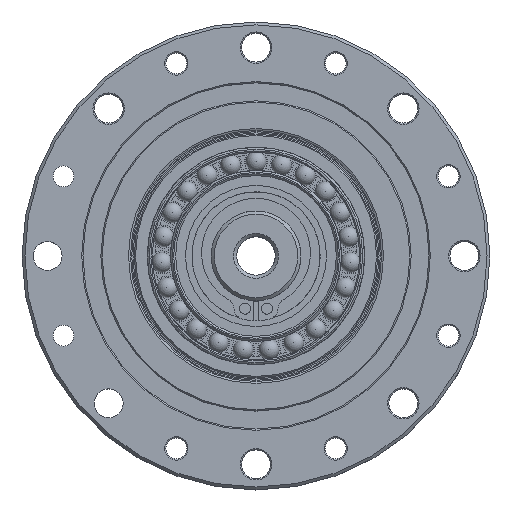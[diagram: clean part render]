
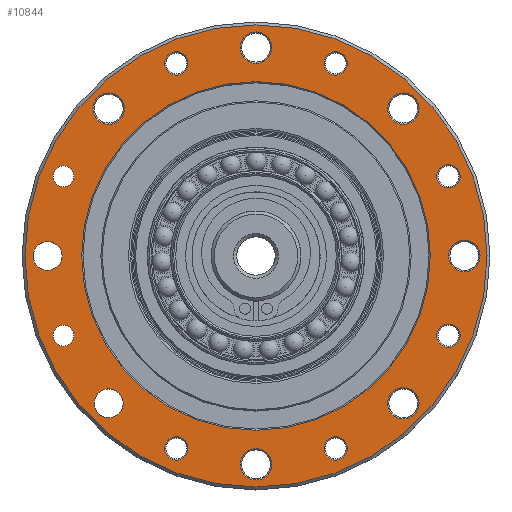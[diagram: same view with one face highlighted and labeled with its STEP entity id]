
A CAD part, top view. The second image highlights one B-rep face of the part: STEP entity #10844.
In plain terms, the highlighted planar face has unit normal (0, 0, 1).
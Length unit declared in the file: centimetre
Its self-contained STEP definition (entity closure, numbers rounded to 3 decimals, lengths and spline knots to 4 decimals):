
#1164=PLANE('',#12297);
#2376=FACE_BOUND('',#4022,.T.);
#2377=FACE_BOUND('',#4023,.T.);
#2378=FACE_BOUND('',#4024,.T.);
#2379=FACE_BOUND('',#4025,.T.);
#2380=FACE_BOUND('',#4026,.T.);
#2381=FACE_BOUND('',#4027,.T.);
#2382=FACE_BOUND('',#4028,.T.);
#2383=FACE_BOUND('',#4029,.T.);
#2384=FACE_BOUND('',#4030,.T.);
#2385=FACE_BOUND('',#4031,.T.);
#2386=FACE_BOUND('',#4032,.T.);
#2387=FACE_BOUND('',#4033,.T.);
#2388=FACE_BOUND('',#4034,.T.);
#2389=FACE_BOUND('',#4035,.T.);
#2390=FACE_BOUND('',#4036,.T.);
#2391=FACE_BOUND('',#4037,.T.);
#2392=FACE_BOUND('',#4038,.T.);
#2393=FACE_BOUND('',#4039,.T.);
#4022=EDGE_LOOP('',(#9611));
#4023=EDGE_LOOP('',(#9612));
#4024=EDGE_LOOP('',(#9613));
#4025=EDGE_LOOP('',(#9614));
#4026=EDGE_LOOP('',(#9615));
#4027=EDGE_LOOP('',(#9616));
#4028=EDGE_LOOP('',(#9617));
#4029=EDGE_LOOP('',(#9618));
#4030=EDGE_LOOP('',(#9619));
#4031=EDGE_LOOP('',(#9620));
#4032=EDGE_LOOP('',(#9621));
#4033=EDGE_LOOP('',(#9622));
#4034=EDGE_LOOP('',(#9623));
#4035=EDGE_LOOP('',(#9624));
#4036=EDGE_LOOP('',(#9625));
#4037=EDGE_LOOP('',(#9626));
#4038=EDGE_LOOP('',(#9627));
#4039=EDGE_LOOP('',(#9628));
#4951=CIRCLE('',#12181,0.225);
#4953=CIRCLE('',#12184,0.225);
#4955=CIRCLE('',#12187,0.1621);
#4957=CIRCLE('',#12190,0.1621);
#4961=CIRCLE('',#12196,3.605);
#4964=CIRCLE('',#12203,2.72);
#4969=CIRCLE('',#12213,0.245);
#4973=CIRCLE('',#12220,0.1821);
#4977=CIRCLE('',#12227,0.1821);
#4979=CIRCLE('',#12230,0.245);
#4981=CIRCLE('',#12233,0.1821);
#4983=CIRCLE('',#12236,0.245);
#4985=CIRCLE('',#12239,0.1821);
#4987=CIRCLE('',#12242,0.245);
#4989=CIRCLE('',#12245,0.1821);
#4991=CIRCLE('',#12248,0.245);
#4993=CIRCLE('',#12251,0.1821);
#4995=CIRCLE('',#12254,0.245);
#5823=VERTEX_POINT('',#18952);
#5825=VERTEX_POINT('',#18957);
#5827=VERTEX_POINT('',#18962);
#5829=VERTEX_POINT('',#18967);
#5833=VERTEX_POINT('',#18977);
#5836=VERTEX_POINT('',#18987);
#5841=VERTEX_POINT('',#19002);
#5845=VERTEX_POINT('',#19013);
#5849=VERTEX_POINT('',#19024);
#5851=VERTEX_POINT('',#19029);
#5853=VERTEX_POINT('',#19034);
#5855=VERTEX_POINT('',#19039);
#5857=VERTEX_POINT('',#19044);
#5859=VERTEX_POINT('',#19049);
#5861=VERTEX_POINT('',#19054);
#5863=VERTEX_POINT('',#19059);
#5865=VERTEX_POINT('',#19064);
#5867=VERTEX_POINT('',#19069);
#7095=EDGE_CURVE('',#5823,#5823,#4951,.T.);
#7097=EDGE_CURVE('',#5825,#5825,#4953,.T.);
#7099=EDGE_CURVE('',#5827,#5827,#4955,.T.);
#7101=EDGE_CURVE('',#5829,#5829,#4957,.T.);
#7105=EDGE_CURVE('',#5833,#5833,#4961,.T.);
#7108=EDGE_CURVE('',#5836,#5836,#4964,.T.);
#7113=EDGE_CURVE('',#5841,#5841,#4969,.T.);
#7117=EDGE_CURVE('',#5845,#5845,#4973,.T.);
#7121=EDGE_CURVE('',#5849,#5849,#4977,.T.);
#7123=EDGE_CURVE('',#5851,#5851,#4979,.T.);
#7125=EDGE_CURVE('',#5853,#5853,#4981,.T.);
#7127=EDGE_CURVE('',#5855,#5855,#4983,.T.);
#7129=EDGE_CURVE('',#5857,#5857,#4985,.T.);
#7131=EDGE_CURVE('',#5859,#5859,#4987,.T.);
#7133=EDGE_CURVE('',#5861,#5861,#4989,.T.);
#7135=EDGE_CURVE('',#5863,#5863,#4991,.T.);
#7137=EDGE_CURVE('',#5865,#5865,#4993,.T.);
#7139=EDGE_CURVE('',#5867,#5867,#4995,.T.);
#9611=ORIENTED_EDGE('',*,*,#7095,.F.);
#9612=ORIENTED_EDGE('',*,*,#7097,.F.);
#9613=ORIENTED_EDGE('',*,*,#7099,.F.);
#9614=ORIENTED_EDGE('',*,*,#7101,.F.);
#9615=ORIENTED_EDGE('',*,*,#7105,.F.);
#9616=ORIENTED_EDGE('',*,*,#7108,.F.);
#9617=ORIENTED_EDGE('',*,*,#7113,.F.);
#9618=ORIENTED_EDGE('',*,*,#7117,.F.);
#9619=ORIENTED_EDGE('',*,*,#7121,.F.);
#9620=ORIENTED_EDGE('',*,*,#7123,.F.);
#9621=ORIENTED_EDGE('',*,*,#7125,.F.);
#9622=ORIENTED_EDGE('',*,*,#7127,.F.);
#9623=ORIENTED_EDGE('',*,*,#7129,.F.);
#9624=ORIENTED_EDGE('',*,*,#7131,.F.);
#9625=ORIENTED_EDGE('',*,*,#7133,.F.);
#9626=ORIENTED_EDGE('',*,*,#7135,.F.);
#9627=ORIENTED_EDGE('',*,*,#7137,.F.);
#9628=ORIENTED_EDGE('',*,*,#7139,.F.);
#10844=ADVANCED_FACE('',(#2376,#2377,#2378,#2379,#2380,#2381,#2382,#2383,
#2384,#2385,#2386,#2387,#2388,#2389,#2390,#2391,#2392,#2393),#1164,.T.);
#12181=AXIS2_PLACEMENT_3D('',#18953,#15181,#15182);
#12184=AXIS2_PLACEMENT_3D('',#18958,#15187,#15188);
#12187=AXIS2_PLACEMENT_3D('',#18963,#15193,#15194);
#12190=AXIS2_PLACEMENT_3D('',#18968,#15199,#15200);
#12196=AXIS2_PLACEMENT_3D('',#18978,#15211,#15212);
#12203=AXIS2_PLACEMENT_3D('',#18988,#15225,#15226);
#12213=AXIS2_PLACEMENT_3D('',#19003,#15245,#15246);
#12220=AXIS2_PLACEMENT_3D('',#19014,#15259,#15260);
#12227=AXIS2_PLACEMENT_3D('',#19025,#15273,#15274);
#12230=AXIS2_PLACEMENT_3D('',#19030,#15279,#15280);
#12233=AXIS2_PLACEMENT_3D('',#19035,#15285,#15286);
#12236=AXIS2_PLACEMENT_3D('',#19040,#15291,#15292);
#12239=AXIS2_PLACEMENT_3D('',#19045,#15297,#15298);
#12242=AXIS2_PLACEMENT_3D('',#19050,#15303,#15304);
#12245=AXIS2_PLACEMENT_3D('',#19055,#15309,#15310);
#12248=AXIS2_PLACEMENT_3D('',#19060,#15315,#15316);
#12251=AXIS2_PLACEMENT_3D('',#19065,#15321,#15322);
#12254=AXIS2_PLACEMENT_3D('',#19070,#15327,#15328);
#12297=AXIS2_PLACEMENT_3D('',#19134,#15413,#15414);
#15181=DIRECTION('center_axis',(0.,0.,
1.));
#15182=DIRECTION('ref_axis',(-1.,0.,0.));
#15187=DIRECTION('center_axis',(0.,0.,
1.));
#15188=DIRECTION('ref_axis',(-1.,0.,0.));
#15193=DIRECTION('center_axis',(0.,0.,
1.));
#15194=DIRECTION('ref_axis',(-1.,0.,0.));
#15199=DIRECTION('center_axis',(0.,0.,
1.));
#15200=DIRECTION('ref_axis',(-1.,0.,0.));
#15211=DIRECTION('center_axis',(0.,0.,
-1.));
#15212=DIRECTION('ref_axis',(0.,1.,0.));
#15225=DIRECTION('center_axis',(0.,0.,
1.));
#15226=DIRECTION('ref_axis',(0.,1.,0.));
#15245=DIRECTION('center_axis',(0.,0.,
1.));
#15246=DIRECTION('ref_axis',(1.,0.,0.));
#15259=DIRECTION('center_axis',(0.,0.,
1.));
#15260=DIRECTION('ref_axis',(1.,0.,0.));
#15273=DIRECTION('center_axis',(0.,0.,
1.));
#15274=DIRECTION('ref_axis',(1.,0.,0.));
#15279=DIRECTION('center_axis',(0.,0.,
1.));
#15280=DIRECTION('ref_axis',(1.,0.,0.));
#15285=DIRECTION('center_axis',(0.,0.,
1.));
#15286=DIRECTION('ref_axis',(1.,0.,0.));
#15291=DIRECTION('center_axis',(0.,0.,
1.));
#15292=DIRECTION('ref_axis',(1.,0.,0.));
#15297=DIRECTION('center_axis',(0.,0.,
1.));
#15298=DIRECTION('ref_axis',(1.,0.,0.));
#15303=DIRECTION('center_axis',(0.,0.,
1.));
#15304=DIRECTION('ref_axis',(1.,0.,0.));
#15309=DIRECTION('center_axis',(0.,0.,
1.));
#15310=DIRECTION('ref_axis',(1.,0.,0.));
#15315=DIRECTION('center_axis',(0.,0.,
1.));
#15316=DIRECTION('ref_axis',(1.,0.,0.));
#15321=DIRECTION('center_axis',(0.,0.,
1.));
#15322=DIRECTION('ref_axis',(1.,0.,0.));
#15327=DIRECTION('center_axis',(0.,0.,
1.));
#15328=DIRECTION('ref_axis',(1.,0.,0.));
#15413=DIRECTION('center_axis',(0.,0.,
1.));
#15414=DIRECTION('ref_axis',(-1.,0.,0.));
#18952=CARTESIAN_POINT('',(-2.0731,-2.2981,3.4));
#18953=CARTESIAN_POINT('Origin',(-2.2981,-2.2981,3.4));
#18957=CARTESIAN_POINT('',(-3.025,0.,3.4));
#18958=CARTESIAN_POINT('Origin',(-3.25,0.,3.4));
#18962=CARTESIAN_POINT('',(-2.8405,1.2437,3.4));
#18963=CARTESIAN_POINT('Origin',(-3.0026,1.2437,3.4));
#18967=CARTESIAN_POINT('',(-2.8405,-1.2437,3.4));
#18968=CARTESIAN_POINT('Origin',(-3.0026,-1.2437,3.4));
#18977=CARTESIAN_POINT('',(0.,-3.605,3.4));
#18978=CARTESIAN_POINT('Origin',(0.,0.,
3.4));
#18987=CARTESIAN_POINT('',(0.,-2.72,3.4));
#18988=CARTESIAN_POINT('Origin',(0.,0.,
3.4));
#19002=CARTESIAN_POINT('',(-0.245,-3.25,3.4));
#19003=CARTESIAN_POINT('Origin',(0.,-3.25,3.4));
#19013=CARTESIAN_POINT('',(-1.4258,-3.0026,3.4));
#19014=CARTESIAN_POINT('Origin',(-1.2437,-3.0026,3.4));
#19024=CARTESIAN_POINT('',(1.0616,-3.0026,3.4));
#19025=CARTESIAN_POINT('Origin',(1.2437,-3.0026,3.4));
#19029=CARTESIAN_POINT('',(2.0531,-2.2981,3.4));
#19030=CARTESIAN_POINT('Origin',(2.2981,-2.2981,3.4));
#19034=CARTESIAN_POINT('',(2.8205,-1.2437,3.4));
#19035=CARTESIAN_POINT('Origin',(3.0026,-1.2437,3.4));
#19039=CARTESIAN_POINT('',(3.005,0.,3.4));
#19040=CARTESIAN_POINT('Origin',(3.25,0.,3.4));
#19044=CARTESIAN_POINT('',(2.8205,1.2437,3.4));
#19045=CARTESIAN_POINT('Origin',(3.0026,1.2437,3.4));
#19049=CARTESIAN_POINT('',(2.0531,2.2981,3.4));
#19050=CARTESIAN_POINT('Origin',(2.2981,2.2981,3.4));
#19054=CARTESIAN_POINT('',(1.0616,3.0026,3.4));
#19055=CARTESIAN_POINT('Origin',(1.2437,3.0026,3.4));
#19059=CARTESIAN_POINT('',(-0.245,3.25,3.4));
#19060=CARTESIAN_POINT('Origin',(0.,3.25,3.4));
#19064=CARTESIAN_POINT('',(-1.4258,3.0026,3.4));
#19065=CARTESIAN_POINT('Origin',(-1.2437,3.0026,3.4));
#19069=CARTESIAN_POINT('',(-2.5431,2.2981,3.4));
#19070=CARTESIAN_POINT('Origin',(-2.2981,2.2981,3.4));
#19134=CARTESIAN_POINT('Origin',(0.,0.,
3.4));
